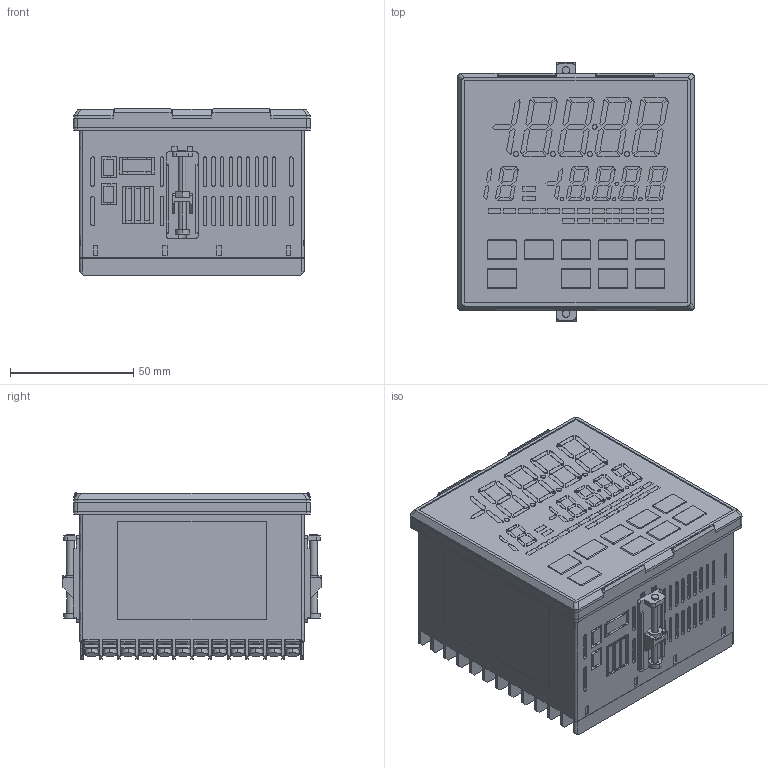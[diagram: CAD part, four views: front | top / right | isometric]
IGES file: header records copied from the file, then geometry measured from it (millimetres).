
Start section: SolidWorks IGES file using analytic representation for surfaces
Global section: file name: \\Mecha-dt\data\mecha_3d\P\PCB1\D17-003\HP_3D\PCB1_iges\AD_PCB1_170526.IGS; native system: SolidWorks 2017; preprocessor: SolidWorks 2017; author: kawahara; date: 180227.113929; units: millimetre
Bounding box: 96 x 104.95 x 67.5 mm (x, y, z)
Surface area: 75367.4 mm2 (no closed solid volume)
Topology: 0 solids, 0 shells, 2390 faces, 19279 edges, 19279 vertices
Faces by surface type: bspline 1788, revolution 602
